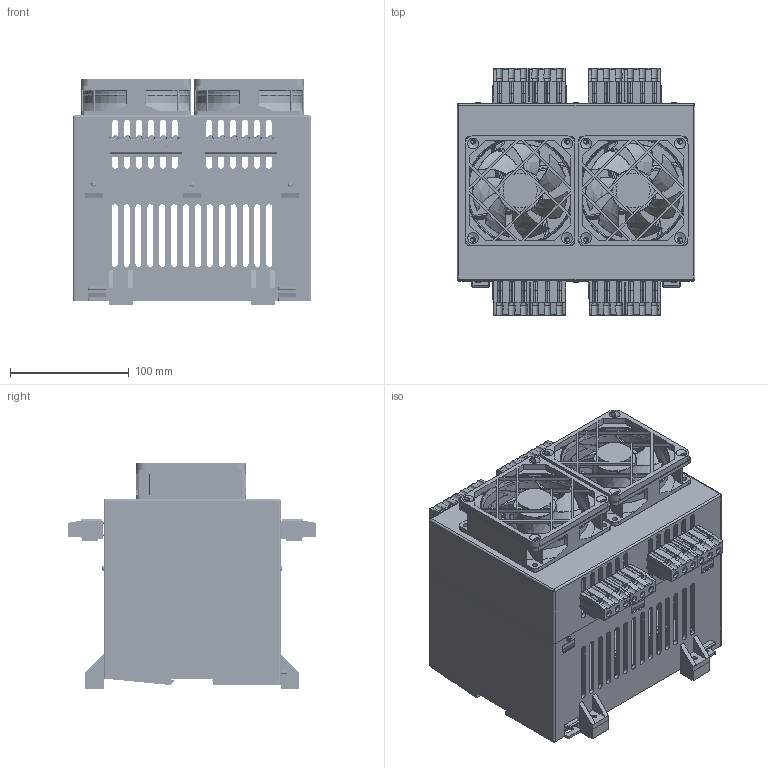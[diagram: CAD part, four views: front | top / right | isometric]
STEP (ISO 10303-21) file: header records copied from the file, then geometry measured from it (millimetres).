
FILE_DESCRIPTION(/* description */ (''),/* implementation_level */ '2;1');
FILE_NAME(/* name */ 'AL200R-WD v2.step',/* time_stamp */ '2024-11-21T10:51:42+01:00',/* author */ (''),/* organization */ (''),/* preprocessor_version */ 'ST-DEVELOPER v20',/* originating_system */ 'Autodesk Translation Framework v13.20.0.188',/* authorisation */ '');
FILE_SCHEMA (('AUTOMOTIVE_DESIGN { 1 0 10303 214 3 1 1 }'));
Products named in the file (23): AL200R-WD; CM200_LG_H_55_BO_DB_GH; CM200_H_55_BO; CM200_GEH_150_BO_DB_GH; PCB_CM200; PCB_13.1; schraub_blech_b2.2x9.5.2; CM_GDH; CUI_DEVICES_CFM-9225V-227-320; 1774137 v1; 1774137 v1 (2); 1774137 v1 (1); 1774137 v1 (3); 10316900; 10316900_1; 1774137 v1 (3)_1; 1774137; 1774137 v1 (1)_1; 1774137_1; 1774137 v1_1; 1774137_2; 1774137 v1 (2)_1; 1774137_3
Assembly tree (36 placements, depth 4):
  AL200R-WD
    CUI_DEVICES_CFM-9225V-227-320  x2
    CM200_LG_H_55_BO_DB_GH
      CM200_H_55_BO
      CM200_GEH_150_BO_DB_GH
      CM_GDH  x4
      schraub_blech_b2.2x9.5.2  x6
      PCB_CM200
        PCB_13.1  x2
    1774137 v1
      1774137_2
    1774137 v1 (2)
      1774137_3
    1774137 v1 (1)
      1774137_1
    1774137 v1 (3)
      1774137
    10316900
    10316900_1
    1774137 v1 (3)_1
      1774137
    1774137 v1 (1)_1
      1774137_1
    1774137 v1_1
      1774137_2
    1774137 v1 (2)_1
      1774137_3
Bounding box: 200 x 208.17 x 190.1 mm (x, y, z)
Volume: 808696.7 mm3; surface area: 572710.7 mm2
Topology: 26 solids, 26 shells, 4713 faces, 12737 edges, 8320 vertices
Faces by surface type: plane 2997, cylinder 1190, bspline 230, torus 142, cone 138, sphere 16
Full cylindrical faces by diameter (mm): 0.457 x8, 1 x4, 1.5 x54, 1.6 x48, 2.2 x48, 2.4 x6, 4 x10, 4.1 x8, 4.3 x24, 4.5 x4, 5 x24, 5.6 x24, 10 x2, 36 x2, 88 x3, 89.875 x1
Entity records: 103787 total; most frequent: CARTESIAN_POINT 32089, ORIENTED_EDGE 14824, DIRECTION 14097, EDGE_CURVE 7412, LINE 5201, VECTOR 5201, VERTEX_POINT 4853, AXIS2_PLACEMENT_3D 4448
